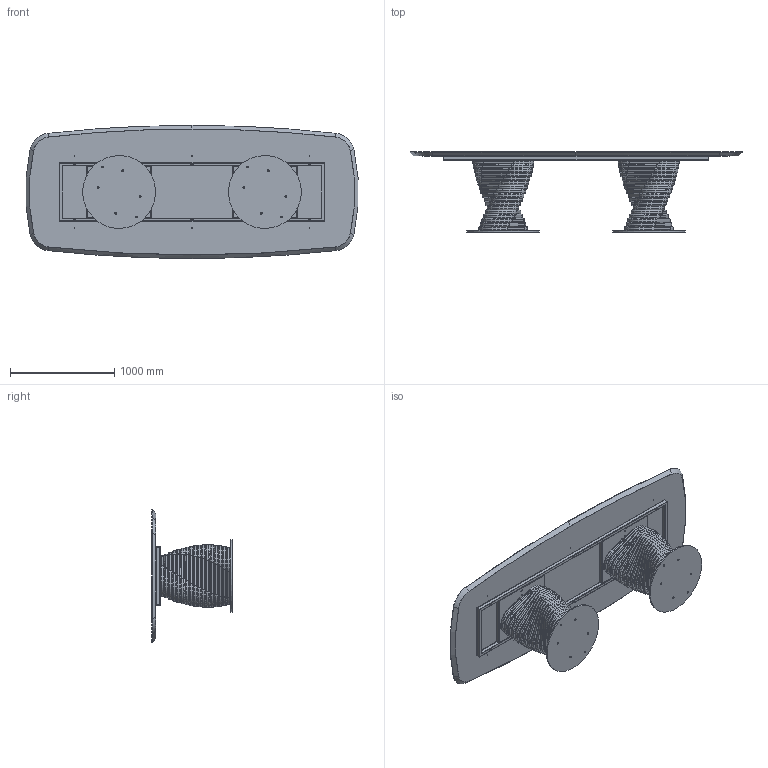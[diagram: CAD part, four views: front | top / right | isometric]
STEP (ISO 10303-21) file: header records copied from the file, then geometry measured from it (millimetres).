
FILE_DESCRIPTION (( 'STEP AP214' ), '1' );
FILE_NAME ('RO45W.STEP', '2024-08-07T13:21:59', ( '' ), ( '' ), 'SwSTEP 2.0', 'SolidWorks 2022', '' );
FILE_SCHEMA (( 'AUTOMOTIVE_DESIGN' ));
Length unit declared in the file: millimetre
Products named in the file (15): TTAV03_02-06-VASSOIO IRRIGIDIMENTO TELAIO UNIVERSALE RETTANGOLARE; M8xXXmm_hex_M8X20mm; M8xXXmm_M8x55mm; ROBX00000SUP-00-Anello rotolo SUPERIORE_Default<A macchina>; TTAV03-06-TELAIO UNIVERSALE X TAVOLI 300-340cm; TTAV03_01-06-RING TUBO TELAIO UNIVERSALE X TAVOLI 300-340cm; rondella M8_8X24; ROBX00000-00-ROTOLO BASE 17 ANELLI; W4XCMXX-00-Piani Sagomati legno_3200 x 1280; ROBX00000INF-00-Anello rotolo INFERIORE_Default<A macchina>; M8xXXmm_M8x20mm; COLLO TELAIO UNIVERSALE TTAV03 CON FERRAMENTA_MTG TOP LEGNO-MARMO-KING; ROBX00000MED-00-Anello rotolo MEDIO_Default<A macchina>; RO45W; ROB200000-00-PIASTRA BASE_Ø70cm
Assembly tree (67 placements, depth 4):
  RO45W
    ROB200000-00-PIASTRA BASE_Ø70cm  x2
    COLLO TELAIO UNIVERSALE TTAV03 CON FERRAMENTA_MTG TOP LEGNO-MARMO-KING
      TTAV03-06-TELAIO UNIVERSALE X TAVOLI 300-340cm
        TTAV03_01-06-RING TUBO TELAIO UNIVERSALE X TAVOLI 300-340cm
        TTAV03_02-06-VASSOIO IRRIGIDIMENTO TELAIO UNIVERSALE RETTANGOLARE  x2
      rondella M8_8X24  x6
      M8xXXmm_M8x55mm  x6
    ROBX00000-00-ROTOLO BASE 17 ANELLI  x2
      ROBX00000INF-00-Anello rotolo INFERIORE_Default<A macchina>
      ROBX00000MED-00-Anello rotolo MEDIO_Default<A macchina>
      ROBX00000SUP-00-Anello rotolo SUPERIORE_Default<A macchina>
    M8xXXmm_hex_M8X20mm  x12
    rondella M8_8X24  x8
    M8xXXmm_M8x20mm  x8
    W4XCMXX-00-Piani Sagomati legno_3200 x 1280
Bounding box: 3190.14 x 770 x 1280 mm (x, y, z)
Volume: 163311185.8 mm3; surface area: 22310519.4 mm2
Topology: 182 solids, 182 shells, 3083 faces, 7252 edges, 4469 vertices
Faces by surface type: plane 1230, cylinder 1041, torus 473, cone 331, sphere 8
Entity records: 22063 total; most frequent: CARTESIAN_POINT 5132, DIRECTION 3432, ORIENTED_EDGE 3068, EDGE_CURVE 1534, AXIS2_PLACEMENT_3D 1314, VERTEX_POINT 952, LINE 804, VECTOR 804
